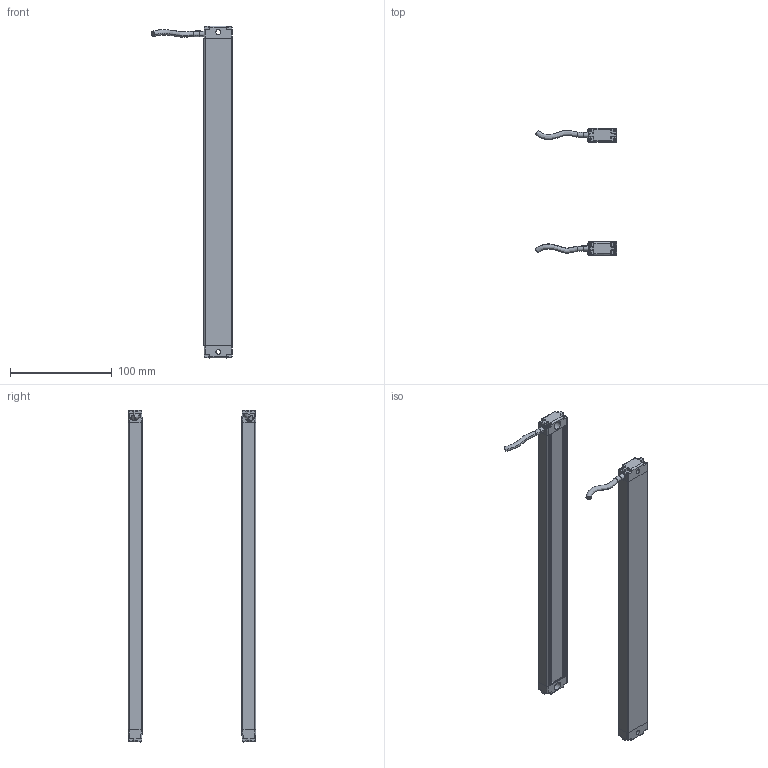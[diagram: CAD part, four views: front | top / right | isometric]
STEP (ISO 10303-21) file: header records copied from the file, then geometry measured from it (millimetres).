
FILE_DESCRIPTION(/* description */ (''),/* implementation_level */ '2;1');
FILE_NAME(/* name */ '3010(13x28w).stp',/* time_stamp */ '2020-11-23T16:18:15+08:00',/* author */ (''),/* organization */ (''),/* preprocessor_version */ 'ST-DEVELOPER v16',/* originating_system */ 'SIEMENS PLM Software NX 10.0',/* authorisation */ '');
FILE_SCHEMA (('AP203_CONFIGURATION_CONTROLLED_3D_DESIGN_OF_MECHANICAL_PARTS_AND_ASSEMBLIES_MIM_LF { 1 0 10303 403 2 1 2}'));
Length unit declared in the file: millimetre
Products named in the file (1): Admi12F864633dsn
Bounding box: 79.6 x 125.02 x 326 mm (x, y, z)
Volume: 97519.4 mm3; surface area: 128904.2 mm2
Topology: 10 solids, 10 shells, 760 faces, 2150 edges, 1419 vertices
Faces by surface type: plane 356, cylinder 312, torus 52, bspline 40
Entity records: 28331 total; most frequent: CARTESIAN_POINT 8795, ORIENTED_EDGE 4300, DIRECTION 3785, EDGE_CURVE 2150, VERTEX_POINT 1419, AXIS2_PLACEMENT_3D 1285, LINE 1215, VECTOR 1215
